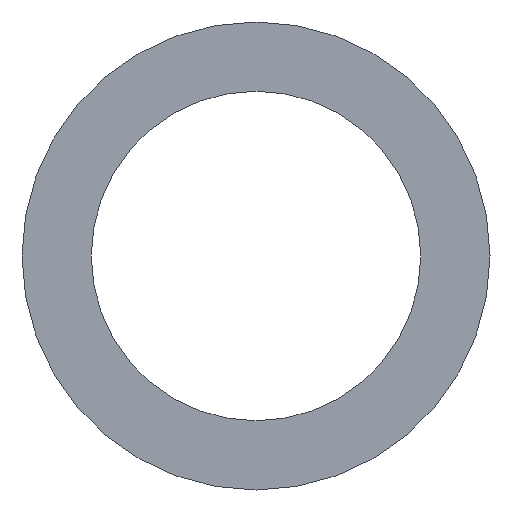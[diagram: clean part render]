
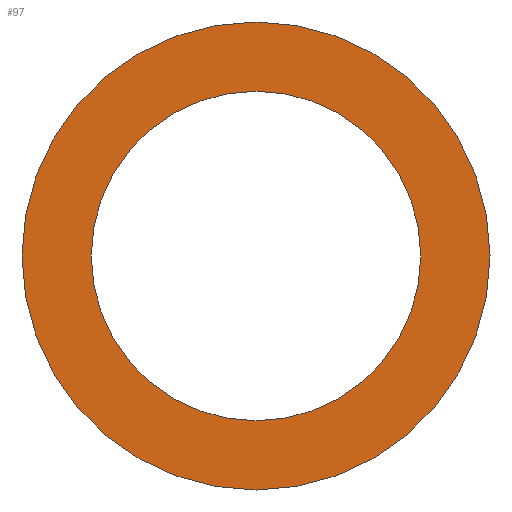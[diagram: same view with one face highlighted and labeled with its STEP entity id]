
A CAD part, front view. The second image highlights one B-rep face of the part: STEP entity #97.
In plain terms, the highlighted planar face has unit normal (0, -1, 0).
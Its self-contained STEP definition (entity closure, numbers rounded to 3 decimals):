
#21=FACE_BOUND('',#40,.T.);
#29=FACE_OUTER_BOUND('',#39,.T.);
#39=EDGE_LOOP('',(#79));
#40=EDGE_LOOP('',(#80));
#53=CIRCLE('',#109,44.);
#54=CIRCLE('',#111,62.5);
#61=VERTEX_POINT('',#162);
#62=VERTEX_POINT('',#165);
#69=EDGE_CURVE('',#61,#61,#53,.T.);
#70=EDGE_CURVE('',#62,#62,#54,.T.);
#79=ORIENTED_EDGE('',*,*,#70,.F.);
#80=ORIENTED_EDGE('',*,*,#69,.T.);
#92=PLANE('',#110);
#97=ADVANCED_FACE('',(#29,#21),#92,.T.);
#109=AXIS2_PLACEMENT_3D('',#163,#131,#132);
#110=AXIS2_PLACEMENT_3D('',#164,#133,#134);
#111=AXIS2_PLACEMENT_3D('',#166,#135,#136);
#131=DIRECTION('center_axis',(0.,1.,0.));
#132=DIRECTION('ref_axis',(1.,0.,0.));
#133=DIRECTION('center_axis',(0.,-1.,0.));
#134=DIRECTION('ref_axis',(0.,0.,-1.));
#135=DIRECTION('center_axis',(0.,1.,0.));
#136=DIRECTION('ref_axis',(1.,0.,0.));
#162=CARTESIAN_POINT('',(-44.,0.,0.));
#163=CARTESIAN_POINT('Origin',(0.,0.,0.));
#164=CARTESIAN_POINT('Origin',(-62.5,0.,0.));
#165=CARTESIAN_POINT('',(-62.5,0.,0.));
#166=CARTESIAN_POINT('Origin',(0.,0.,0.));
